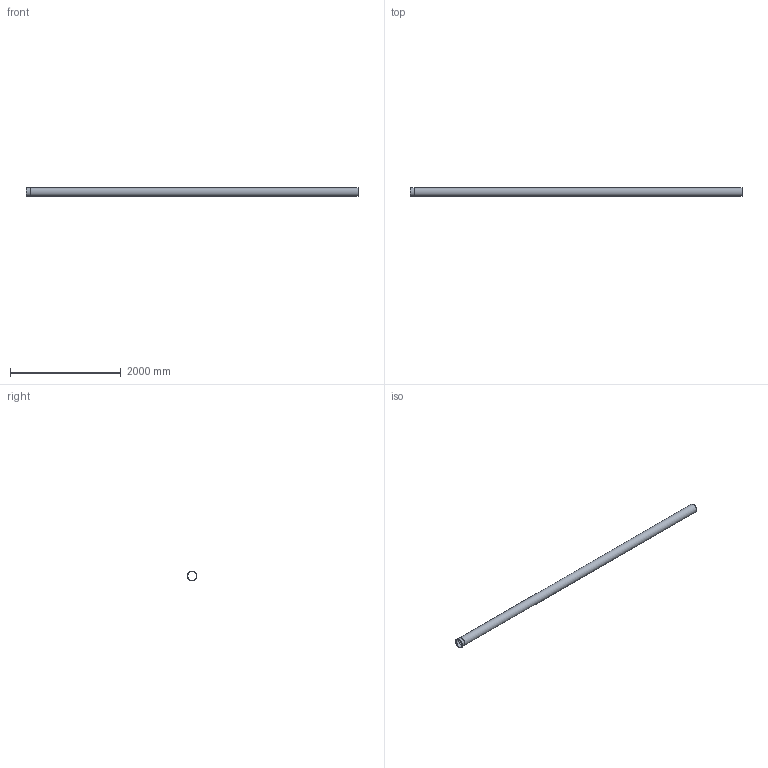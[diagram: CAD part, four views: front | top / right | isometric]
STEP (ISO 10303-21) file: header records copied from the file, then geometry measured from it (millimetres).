
FILE_DESCRIPTION((''),'2;1');
FILE_NAME('I:\WATTS\3D_CAD\3D_CAD_Models\Blucher_Drains\P_StraightPipe\WebsiteFiles\3D\STEP\P6-19.7-316.stp','2009-12-02T16:35:05',('menesek'),(''),'Autodesk Inventor 2010','Autodesk Inventor 2010','');
FILE_SCHEMA(('AUTOMOTIVE_DESIGN { 1 0 10303 214 1 1 1 1 }'));
Length unit declared in the file: inch
Products named in the file (1): P6-19.7-316
Bounding box: 6000 x 177.04 x 177.04 mm (x, y, z)
Volume: 3841409.7 mm3; surface area: 5986245.3 mm2
Topology: 1 solids, 1 shells, 109 faces, 285 edges, 190 vertices
Faces by surface type: plane 59, bspline 34, cylinder 16
Full cylindrical faces by diameter (mm): 157.226 x1, 159.766 x1, 160.782 x2, 177.038 x1
Entity records: 13936 total; most frequent: CARTESIAN_POINT 11558, ORIENTED_EDGE 548, DIRECTION 356, EDGE_CURVE 274, VERTEX_POINT 186, EDGE_LOOP 128, AXIS2_PLACEMENT_3D 120, VECTOR 116
